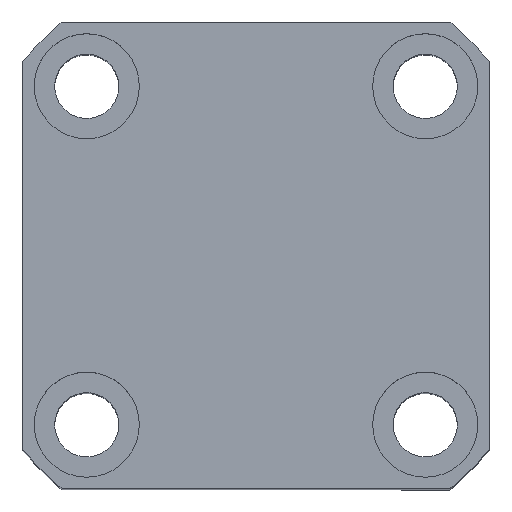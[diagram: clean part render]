
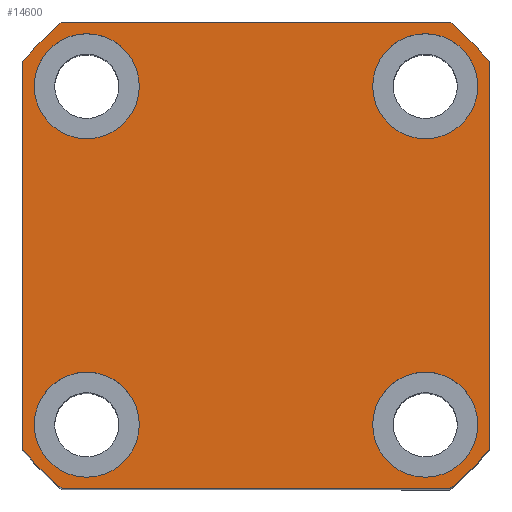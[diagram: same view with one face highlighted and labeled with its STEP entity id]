
A CAD part, top view. The second image highlights one B-rep face of the part: STEP entity #14600.
In plain terms, the highlighted planar face has unit normal (0, 0, 1).
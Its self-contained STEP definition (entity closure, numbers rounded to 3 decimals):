
#11 = DIRECTION ( 'NONE',  ( 0., 0., 1. ) ) ;
#78 = EDGE_LOOP ( 'NONE', ( #6673, #14001 ) ) ;
#97 = CARTESIAN_POINT ( 'NONE',  ( -20., -29., 55. ) ) ;
#233 = VECTOR ( 'NONE', #10472, 1000. ) ;
#246 = VERTEX_POINT ( 'NONE', #7760 ) ;
#472 = VERTEX_POINT ( 'NONE', #12608 ) ;
#534 = CIRCLE ( 'NONE', #13666, 52. ) ;
#580 = EDGE_LOOP ( 'NONE', ( #6833, #7365, #2077, #2540, #9382, #10784, #2051, #2820 ) ) ;
#847 = EDGE_CURVE ( 'NONE', #5343, #472, #9328, .T. ) ;
#876 = AXIS2_PLACEMENT_3D ( 'NONE', #7079, #4788, #1278 ) ;
#881 = DIRECTION ( 'NONE',  ( -1., 0., 0. ) ) ;
#944 = EDGE_CURVE ( 'NONE', #9127, #6945, #5186, .T. ) ;
#951 = ORIENTED_EDGE ( 'NONE', *, *, #1544, .F. ) ;
#968 = FACE_BOUND ( 'NONE', #13212, .T. ) ;
#977 = VERTEX_POINT ( 'NONE', #13096 ) ;
#991 = VERTEX_POINT ( 'NONE', #9659 ) ;
#1052 = CIRCLE ( 'NONE', #5833, 9. ) ;
#1113 = CARTESIAN_POINT ( 'NONE',  ( -29., -29., 55. ) ) ;
#1140 = FACE_BOUND ( 'NONE', #7008, .T. ) ;
#1248 = CARTESIAN_POINT ( 'NONE',  ( -40., 33.226, 55. ) ) ;
#1278 = DIRECTION ( 'NONE',  ( 1., 0., 0. ) ) ;
#1326 = EDGE_CURVE ( 'NONE', #6945, #9127, #1448, .T. ) ;
#1448 = CIRCLE ( 'NONE', #9955, 9. ) ;
#1485 = EDGE_CURVE ( 'NONE', #6420, #13343, #6623, .T. ) ;
#1536 = DIRECTION ( 'NONE',  ( 0., 0., 1. ) ) ;
#1544 = EDGE_CURVE ( 'NONE', #991, #977, #12488, .T. ) ;
#1624 = CIRCLE ( 'NONE', #2731, 9. ) ;
#1637 = VECTOR ( 'NONE', #881, 1000. ) ;
#1799 = AXIS2_PLACEMENT_3D ( 'NONE', #11105, #6641, #5385 ) ;
#1809 = VECTOR ( 'NONE', #3340, 1000. ) ;
#2051 = ORIENTED_EDGE ( 'NONE', *, *, #3837, .T. ) ;
#2077 = ORIENTED_EDGE ( 'NONE', *, *, #3017, .T. ) ;
#2440 = DIRECTION ( 'NONE',  ( 1., 0., 0. ) ) ;
#2531 = VERTEX_POINT ( 'NONE', #8438 ) ;
#2540 = ORIENTED_EDGE ( 'NONE', *, *, #3267, .T. ) ;
#2731 = AXIS2_PLACEMENT_3D ( 'NONE', #1113, #6761, #14774 ) ;
#2820 = ORIENTED_EDGE ( 'NONE', *, *, #847, .T. ) ;
#2828 = CIRCLE ( 'NONE', #10116, 52. ) ;
#3017 = EDGE_CURVE ( 'NONE', #11981, #12909, #534, .T. ) ;
#3018 = VERTEX_POINT ( 'NONE', #6356 ) ;
#3081 = DIRECTION ( 'NONE',  ( 1., 0., 0. ) ) ;
#3252 = EDGE_CURVE ( 'NONE', #4533, #2531, #1624, .T. ) ;
#3267 = EDGE_CURVE ( 'NONE', #12909, #246, #13004, .T. ) ;
#3340 = DIRECTION ( 'NONE',  ( 0., 1., 0. ) ) ;
#3652 = FACE_BOUND ( 'NONE', #5177, .T. ) ;
#3710 = ORIENTED_EDGE ( 'NONE', *, *, #9619, .F. ) ;
#3816 = FACE_BOUND ( 'NONE', #78, .T. ) ;
#3837 = EDGE_CURVE ( 'NONE', #13343, #5343, #8528, .T. ) ;
#3839 = AXIS2_PLACEMENT_3D ( 'NONE', #8370, #1536, #2440 ) ;
#4019 = DIRECTION ( 'NONE',  ( 1., 0., 0. ) ) ;
#4274 = DIRECTION ( 'NONE',  ( 1., 0., 0. ) ) ;
#4318 = CARTESIAN_POINT ( 'NONE',  ( 29., -29., 55. ) ) ;
#4428 = CARTESIAN_POINT ( 'NONE',  ( 20., -29., 55. ) ) ;
#4533 = VERTEX_POINT ( 'NONE', #97 ) ;
#4788 = DIRECTION ( 'NONE',  ( 0., 0., 1. ) ) ;
#5026 = PLANE ( 'NONE',  #11952 ) ;
#5109 = CIRCLE ( 'NONE', #12864, 9. ) ;
#5177 = EDGE_LOOP ( 'NONE', ( #8919, #951 ) ) ;
#5186 = CIRCLE ( 'NONE', #3839, 9. ) ;
#5303 = DIRECTION ( 'NONE',  ( 1., 0., 0. ) ) ;
#5343 = VERTEX_POINT ( 'NONE', #9350 ) ;
#5385 = DIRECTION ( 'NONE',  ( 1., 0., 0. ) ) ;
#5461 = DIRECTION ( 'NONE',  ( 0., 0., 1. ) ) ;
#5723 = CARTESIAN_POINT ( 'NONE',  ( 0., 0., 55. ) ) ;
#5783 = CARTESIAN_POINT ( 'NONE',  ( 40., 33.226, 55. ) ) ;
#5833 = AXIS2_PLACEMENT_3D ( 'NONE', #4318, #5461, #9073 ) ;
#5933 = AXIS2_PLACEMENT_3D ( 'NONE', #13131, #12020, #5303 ) ;
#6027 = EDGE_CURVE ( 'NONE', #2531, #4533, #5109, .T. ) ;
#6193 = VERTEX_POINT ( 'NONE', #9766 ) ;
#6224 = EDGE_CURVE ( 'NONE', #977, #991, #6903, .T. ) ;
#6301 = DIRECTION ( 'NONE',  ( 0., 0., 1. ) ) ;
#6356 = CARTESIAN_POINT ( 'NONE',  ( 38., -29., 55. ) ) ;
#6420 = VERTEX_POINT ( 'NONE', #8884 ) ;
#6426 = DIRECTION ( 'NONE',  ( 1., 0., 0. ) ) ;
#6520 = ORIENTED_EDGE ( 'NONE', *, *, #944, .F. ) ;
#6618 = DIRECTION ( 'NONE',  ( 0., 0., 1. ) ) ;
#6623 = LINE ( 'NONE', #5783, #1809 ) ;
#6641 = DIRECTION ( 'NONE',  ( 0., 0., 1. ) ) ;
#6673 = ORIENTED_EDGE ( 'NONE', *, *, #3252, .F. ) ;
#6728 = CARTESIAN_POINT ( 'NONE',  ( -40., -33.226, 55. ) ) ;
#6761 = DIRECTION ( 'NONE',  ( 0., 0., 1. ) ) ;
#6833 = ORIENTED_EDGE ( 'NONE', *, *, #7371, .T. ) ;
#6903 = CIRCLE ( 'NONE', #7269, 9. ) ;
#6945 = VERTEX_POINT ( 'NONE', #12781 ) ;
#7008 = EDGE_LOOP ( 'NONE', ( #13806, #6520 ) ) ;
#7079 = CARTESIAN_POINT ( 'NONE',  ( -29., 29., 55. ) ) ;
#7269 = AXIS2_PLACEMENT_3D ( 'NONE', #14471, #12222, #3081 ) ;
#7280 = DIRECTION ( 'NONE',  ( 1., 0., 0. ) ) ;
#7365 = ORIENTED_EDGE ( 'NONE', *, *, #8940, .T. ) ;
#7371 = EDGE_CURVE ( 'NONE', #472, #6193, #13939, .T. ) ;
#7507 = CARTESIAN_POINT ( 'NONE',  ( 0., 0., 55. ) ) ;
#7720 = CARTESIAN_POINT ( 'NONE',  ( -33.226, 40., 55. ) ) ;
#7723 = CARTESIAN_POINT ( 'NONE',  ( 20., 29., 55. ) ) ;
#7760 = CARTESIAN_POINT ( 'NONE',  ( 33.226, -40., 55. ) ) ;
#7847 = EDGE_CURVE ( 'NONE', #3018, #9724, #9195, .T. ) ;
#7921 = CARTESIAN_POINT ( 'NONE',  ( 0., 0., 55. ) ) ;
#8289 = CARTESIAN_POINT ( 'NONE',  ( 0., 0., 55. ) ) ;
#8370 = CARTESIAN_POINT ( 'NONE',  ( 29., 29., 55. ) ) ;
#8438 = CARTESIAN_POINT ( 'NONE',  ( -38., -29., 55. ) ) ;
#8528 = CIRCLE ( 'NONE', #12359, 52. ) ;
#8884 = CARTESIAN_POINT ( 'NONE',  ( 40., -33.226, 55. ) ) ;
#8919 = ORIENTED_EDGE ( 'NONE', *, *, #6224, .F. ) ;
#8940 = EDGE_CURVE ( 'NONE', #6193, #11981, #12710, .T. ) ;
#9073 = DIRECTION ( 'NONE',  ( 1., 0., 0. ) ) ;
#9127 = VERTEX_POINT ( 'NONE', #7723 ) ;
#9195 = CIRCLE ( 'NONE', #1799, 9. ) ;
#9315 = VECTOR ( 'NONE', #10130, 1000. ) ;
#9328 = LINE ( 'NONE', #7720, #1637 ) ;
#9350 = CARTESIAN_POINT ( 'NONE',  ( 33.226, 40., 55. ) ) ;
#9382 = ORIENTED_EDGE ( 'NONE', *, *, #9670, .T. ) ;
#9619 = EDGE_CURVE ( 'NONE', #9724, #3018, #1052, .T. ) ;
#9659 = CARTESIAN_POINT ( 'NONE',  ( -38., 29., 55. ) ) ;
#9670 = EDGE_CURVE ( 'NONE', #246, #6420, #2828, .T. ) ;
#9714 = FACE_OUTER_BOUND ( 'NONE', #580, .T. ) ;
#9719 = DIRECTION ( 'NONE',  ( 0., 0., 1. ) ) ;
#9724 = VERTEX_POINT ( 'NONE', #4428 ) ;
#9766 = CARTESIAN_POINT ( 'NONE',  ( -40., 33.226, 55. ) ) ;
#9955 = AXIS2_PLACEMENT_3D ( 'NONE', #14278, #9719, #6426 ) ;
#9998 = CARTESIAN_POINT ( 'NONE',  ( -29., -29., 55. ) ) ;
#10116 = AXIS2_PLACEMENT_3D ( 'NONE', #7921, #6618, #11335 ) ;
#10130 = DIRECTION ( 'NONE',  ( 1., 0., 0. ) ) ;
#10472 = DIRECTION ( 'NONE',  ( 0., -1., 0. ) ) ;
#10608 = DIRECTION ( 'NONE',  ( 0., 0., 1. ) ) ;
#10784 = ORIENTED_EDGE ( 'NONE', *, *, #1485, .T. ) ;
#11030 = DIRECTION ( 'NONE',  ( 0., 0., 1. ) ) ;
#11105 = CARTESIAN_POINT ( 'NONE',  ( 29., -29., 55. ) ) ;
#11335 = DIRECTION ( 'NONE',  ( 1., 0., 0. ) ) ;
#11952 = AXIS2_PLACEMENT_3D ( 'NONE', #8289, #10608, #7280 ) ;
#11981 = VERTEX_POINT ( 'NONE', #6728 ) ;
#12020 = DIRECTION ( 'NONE',  ( 0., 0., 1. ) ) ;
#12222 = DIRECTION ( 'NONE',  ( 0., 0., 1. ) ) ;
#12319 = DIRECTION ( 'NONE',  ( 1., 0., 0. ) ) ;
#12359 = AXIS2_PLACEMENT_3D ( 'NONE', #5723, #11, #12319 ) ;
#12484 = CARTESIAN_POINT ( 'NONE',  ( 40., 33.226, 55. ) ) ;
#12488 = CIRCLE ( 'NONE', #876, 9. ) ;
#12608 = CARTESIAN_POINT ( 'NONE',  ( -33.226, 40., 55. ) ) ;
#12710 = LINE ( 'NONE', #1248, #233 ) ;
#12781 = CARTESIAN_POINT ( 'NONE',  ( 38., 29., 55. ) ) ;
#12864 = AXIS2_PLACEMENT_3D ( 'NONE', #9998, #11030, #4274 ) ;
#12909 = VERTEX_POINT ( 'NONE', #13760 ) ;
#12978 = ORIENTED_EDGE ( 'NONE', *, *, #7847, .F. ) ;
#13004 = LINE ( 'NONE', #13573, #9315 ) ;
#13096 = CARTESIAN_POINT ( 'NONE',  ( -20., 29., 55. ) ) ;
#13131 = CARTESIAN_POINT ( 'NONE',  ( 0., 0., 55. ) ) ;
#13212 = EDGE_LOOP ( 'NONE', ( #12978, #3710 ) ) ;
#13343 = VERTEX_POINT ( 'NONE', #12484 ) ;
#13573 = CARTESIAN_POINT ( 'NONE',  ( -33.226, -40., 55. ) ) ;
#13666 = AXIS2_PLACEMENT_3D ( 'NONE', #7507, #6301, #4019 ) ;
#13760 = CARTESIAN_POINT ( 'NONE',  ( -33.226, -40., 55. ) ) ;
#13806 = ORIENTED_EDGE ( 'NONE', *, *, #1326, .F. ) ;
#13939 = CIRCLE ( 'NONE', #5933, 52. ) ;
#14001 = ORIENTED_EDGE ( 'NONE', *, *, #6027, .F. ) ;
#14278 = CARTESIAN_POINT ( 'NONE',  ( 29., 29., 55. ) ) ;
#14471 = CARTESIAN_POINT ( 'NONE',  ( -29., 29., 55. ) ) ;
#14600 = ADVANCED_FACE ( 'NONE', ( #968, #3816, #3652, #1140, #9714 ), #5026, .T. ) ;
#14774 = DIRECTION ( 'NONE',  ( 1., 0., 0. ) ) ;
